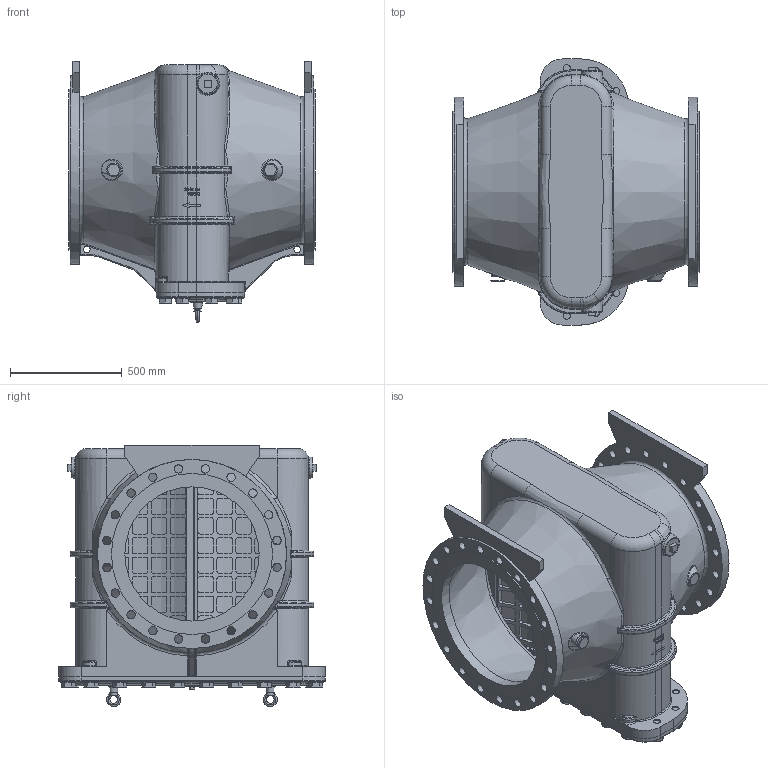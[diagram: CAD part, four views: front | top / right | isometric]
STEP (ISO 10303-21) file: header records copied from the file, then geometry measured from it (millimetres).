
FILE_DESCRIPTION(/* description */ (''),/* implementation_level */ '2;1');
FILE_NAME(/* name */ 'C:\Users\Cédric\Desktop\FAB600_16.stp',/* time_stamp */ '2018-01-29T11:13:31+01:00',/* author */ ('Cédric'),/* organization */ (''),/* preprocessor_version */ 'ST-DEVELOPER v17',/* originating_system */ 'Autodesk Inventor 2018',/* authorisation */ '');
FILE_SCHEMA (('AUTOMOTIVE_DESIGN { 1 0 10303 214 3 1 1 }'));
Products named in the file (1): FAB600_16
Bounding box: 1100 x 1190 x 1167 mm (x, y, z)
Volume: 130109400.7 mm3; surface area: 14653804.7 mm2
Topology: 54 solids, 54 shells, 3562 faces, 9373 edges, 5916 vertices
Faces by surface type: plane 1469, cylinder 1109, bspline 402, torus 308, cone 189, sphere 85
Full cylindrical faces by diameter (mm): 1.6 x1, 2.3 x1, 6.5 x1, 6.92 x1, 8 x1, 13.84 x2, 14 x1, 15 x2, 16 x2, 18.63 x1, 20.955 x1, 30 x2, 31.67 x20, 36 x40, 37 x60, 53.026 x2, 66 x20, 81 x2, 84 x2, 84.93 x2, 600 x2, 720 x2, 845 x2
Entity records: 136747 total; most frequent: CARTESIAN_POINT 48142, ORIENTED_EDGE 18504, DIRECTION 16475, EDGE_CURVE 9252, AXIS2_PLACEMENT_3D 6109, VERTEX_POINT 5916, LINE 4257, VECTOR 4257
